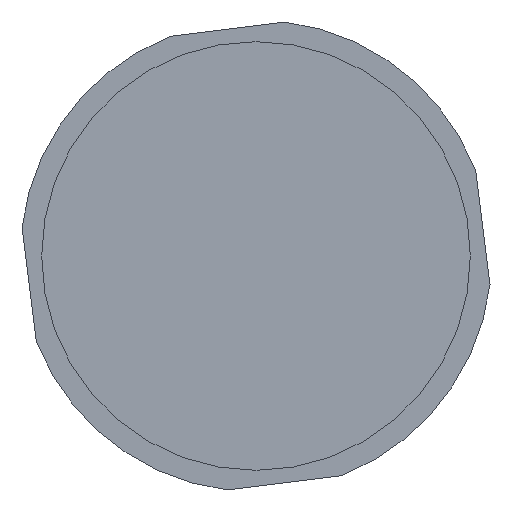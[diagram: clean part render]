
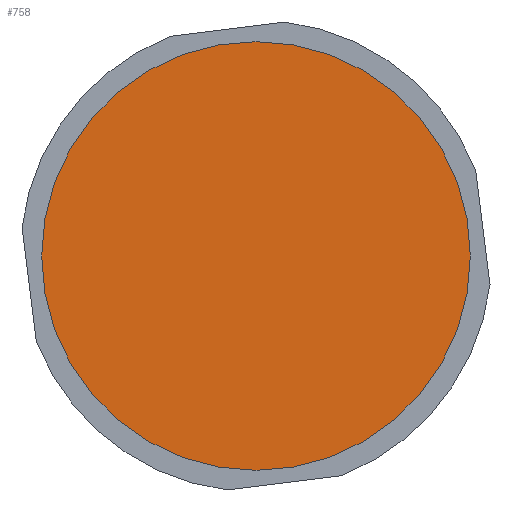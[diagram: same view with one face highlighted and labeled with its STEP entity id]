
A CAD part, front view. The second image highlights one B-rep face of the part: STEP entity #758.
In plain terms, the highlighted planar face has unit normal (0, -1, 0).
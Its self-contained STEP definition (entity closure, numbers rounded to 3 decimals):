
#152 = DIRECTION ( 'NONE',  ( 0., -1., 0. ) ) ;
#159 = FACE_OUTER_BOUND ( 'NONE', #332, .T. ) ;
#243 = DIRECTION ( 'NONE',  ( -1., 0., 0. ) ) ;
#319 = ORIENTED_EDGE ( 'NONE', *, *, #1015, .T. ) ;
#332 = EDGE_LOOP ( 'NONE', ( #355, #319 ) ) ;
#352 = CARTESIAN_POINT ( 'NONE',  ( 15., 0., 0. ) ) ;
#355 = ORIENTED_EDGE ( 'NONE', *, *, #1075, .T. ) ;
#427 = CARTESIAN_POINT ( 'NONE',  ( 0., 0., 0. ) ) ;
#509 = DIRECTION ( 'NONE',  ( 1., 0., 0. ) ) ;
#513 = CARTESIAN_POINT ( 'NONE',  ( 0., 0., 0. ) ) ;
#598 = CIRCLE ( 'NONE', #691, 15. ) ;
#606 = AXIS2_PLACEMENT_3D ( 'NONE', #807, #1188, #509 ) ;
#630 = CIRCLE ( 'NONE', #606, 15. ) ;
#691 = AXIS2_PLACEMENT_3D ( 'NONE', #513, #152, #820 ) ;
#758 = ADVANCED_FACE ( 'NONE', ( #159 ), #857, .F. ) ;
#790 = VERTEX_POINT ( 'NONE', #352 ) ;
#807 = CARTESIAN_POINT ( 'NONE',  ( 0., 0., 0. ) ) ;
#820 = DIRECTION ( 'NONE',  ( 1., 0., 0. ) ) ;
#826 = DIRECTION ( 'NONE',  ( 0., 1., 0. ) ) ;
#857 = PLANE ( 'NONE',  #1154 ) ;
#1015 = EDGE_CURVE ( 'NONE', #1121, #790, #598, .T. ) ;
#1021 = CARTESIAN_POINT ( 'NONE',  ( -15., 0., 0. ) ) ;
#1075 = EDGE_CURVE ( 'NONE', #790, #1121, #630, .T. ) ;
#1121 = VERTEX_POINT ( 'NONE', #1021 ) ;
#1154 = AXIS2_PLACEMENT_3D ( 'NONE', #427, #826, #243 ) ;
#1188 = DIRECTION ( 'NONE',  ( 0., -1., 0. ) ) ;
